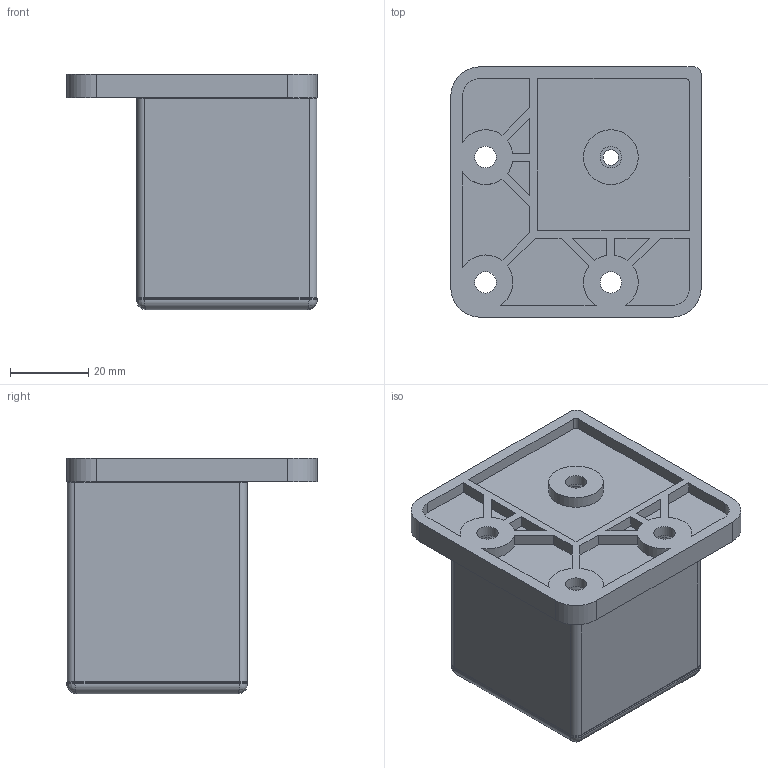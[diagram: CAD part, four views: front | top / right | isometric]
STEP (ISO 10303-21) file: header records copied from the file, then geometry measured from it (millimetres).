
FILE_DESCRIPTION(('Unknown'),'2;1');
FILE_NAME('','Unknown',('Unknown'),('Unknown'),'','Unknown','');
FILE_SCHEMA(('CONFIG_CONTROL_DESIGN'));
Length unit declared in the file: millimetre
Products named in the file (4): E510 U; E510 L; E510 Profile
Assembly tree (3 placements, depth 2):
  (unnamed)
    E510 U
    E510 L
    E510 Profile
Bounding box: 64 x 64 x 60.18 mm (x, y, z)
Volume: 55149.3 mm3; surface area: 50235.3 mm2
Topology: 3 solids, 3 shells, 240 faces, 620 edges, 388 vertices
Faces by surface type: cylinder 96, plane 88, torus 40, sphere 8, cone 4, bspline 4
Full cylindrical faces by diameter (mm): 4 x1, 5.5 x4, 10 x4, 12 x1, 14 x1
Entity records: 11101 total; most frequent: CARTESIAN_POINT 4834, DIRECTION 1219, ORIENTED_EDGE 1186, EDGE_CURVE 593, AXIS2_PLACEMENT_3D 429, VERTEX_POINT 388, LINE 361, VECTOR 361
